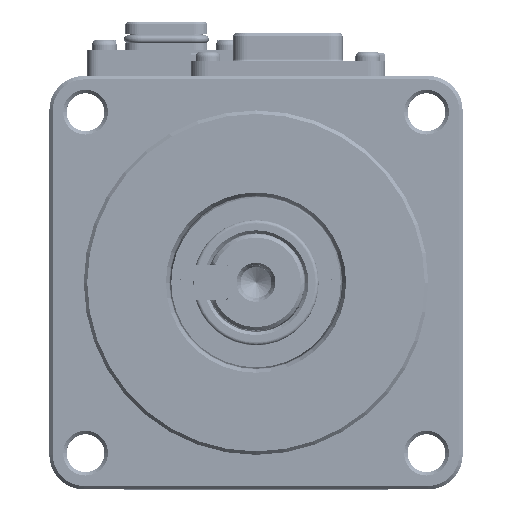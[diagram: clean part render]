
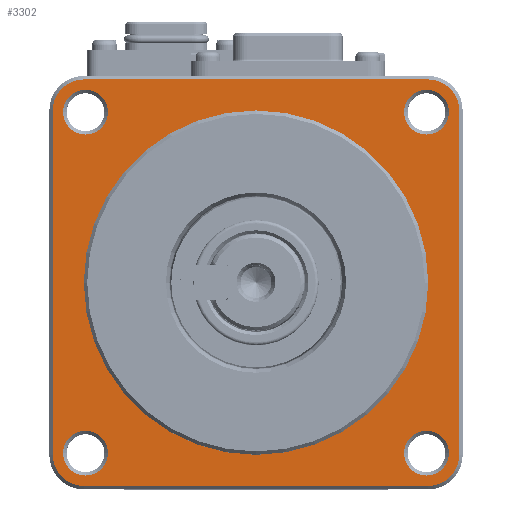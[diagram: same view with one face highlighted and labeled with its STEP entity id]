
A CAD part, top view. The second image highlights one B-rep face of the part: STEP entity #3302.
In plain terms, the highlighted planar face has unit normal (0, 0, 1).
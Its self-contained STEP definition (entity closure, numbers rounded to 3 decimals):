
#469=CARTESIAN_POINT('',(25.,-25.,13.7));
#470=DIRECTION('',(0.,0.,-1.));
#471=DIRECTION('',(1.,0.,0.));
#472=AXIS2_PLACEMENT_3D('',#469,#470,#471);
#474=DIRECTION('',(-1.,0.,0.));
#475=VECTOR('',#474,50.);
#476=CARTESIAN_POINT('',(25.,-29.5,13.7));
#477=LINE('',#476,#475);
#478=CARTESIAN_POINT('',(-25.,-25.,13.7));
#479=DIRECTION('',(0.,0.,-1.));
#480=DIRECTION('',(0.,-1.,0.));
#481=AXIS2_PLACEMENT_3D('',#478,#479,#480);
#483=DIRECTION('',(0.,1.,0.));
#484=VECTOR('',#483,50.);
#485=CARTESIAN_POINT('',(-29.5,-25.,13.7));
#486=LINE('',#485,#484);
#487=CARTESIAN_POINT('',(-25.,25.,13.7));
#488=DIRECTION('',(0.,0.,-1.));
#489=DIRECTION('',(-1.,0.,0.));
#490=AXIS2_PLACEMENT_3D('',#487,#488,#489);
#492=DIRECTION('',(1.,0.,0.));
#493=VECTOR('',#492,50.);
#494=CARTESIAN_POINT('',(-25.,29.5,13.7));
#495=LINE('',#494,#493);
#496=CARTESIAN_POINT('',(25.,25.,13.7));
#497=DIRECTION('',(0.,0.,-1.));
#498=DIRECTION('',(0.,1.,0.));
#499=AXIS2_PLACEMENT_3D('',#496,#497,#498);
#501=DIRECTION('',(0.,-1.,0.));
#502=VECTOR('',#501,50.);
#503=CARTESIAN_POINT('',(29.5,25.,13.7));
#504=LINE('',#503,#502);
#505=CARTESIAN_POINT('',(24.749,-24.749,13.7));
#506=DIRECTION('',(0.,0.,-1.));
#507=DIRECTION('',(-1.,0.,0.));
#508=AXIS2_PLACEMENT_3D('',#505,#506,#507);
#510=CARTESIAN_POINT('',(24.749,-24.749,13.7));
#511=DIRECTION('',(0.,0.,-1.));
#512=DIRECTION('',(1.,0.,0.));
#513=AXIS2_PLACEMENT_3D('',#510,#511,#512);
#515=CARTESIAN_POINT('',(-24.749,-24.749,13.7));
#516=DIRECTION('',(0.,0.,-1.));
#517=DIRECTION('',(0.,-1.,0.));
#518=AXIS2_PLACEMENT_3D('',#515,#516,#517);
#520=CARTESIAN_POINT('',(-24.749,-24.749,13.7));
#521=DIRECTION('',(0.,0.,-1.));
#522=DIRECTION('',(0.,1.,0.));
#523=AXIS2_PLACEMENT_3D('',#520,#521,#522);
#525=CARTESIAN_POINT('',(24.749,24.749,13.7));
#526=DIRECTION('',(0.,0.,-1.));
#527=DIRECTION('',(0.,-1.,0.));
#528=AXIS2_PLACEMENT_3D('',#525,#526,#527);
#530=CARTESIAN_POINT('',(24.749,24.749,13.7));
#531=DIRECTION('',(0.,0.,-1.));
#532=DIRECTION('',(0.,1.,0.));
#533=AXIS2_PLACEMENT_3D('',#530,#531,#532);
#535=CARTESIAN_POINT('',(-24.749,24.749,13.7));
#536=DIRECTION('',(0.,0.,-1.));
#537=DIRECTION('',(-1.,0.,0.));
#538=AXIS2_PLACEMENT_3D('',#535,#536,#537);
#540=CARTESIAN_POINT('',(-24.749,24.749,13.7));
#541=DIRECTION('',(0.,0.,-1.));
#542=DIRECTION('',(1.,0.,0.));
#543=AXIS2_PLACEMENT_3D('',#540,#541,#542);
#554=CARTESIAN_POINT('',(0.,0.,13.7));
#555=DIRECTION('',(0.,0.,-1.));
#556=DIRECTION('',(0.,1.,0.));
#557=AXIS2_PLACEMENT_3D('',#554,#555,#556);
#596=CARTESIAN_POINT('',(0.,0.,13.7));
#597=DIRECTION('',(0.,0.,1.));
#598=DIRECTION('',(0.,1.,0.));
#599=AXIS2_PLACEMENT_3D('',#596,#597,#598);
#2212=CARTESIAN_POINT('',(0.,25.,13.7));
#2213=CARTESIAN_POINT('',(0.,-25.,13.7));
#2214=VERTEX_POINT('',#2212);
#2215=VERTEX_POINT('',#2213);
#2658=CARTESIAN_POINT('',(29.5,-25.,13.7));
#2659=CARTESIAN_POINT('',(25.,-29.5,13.7));
#2660=VERTEX_POINT('',#2658);
#2661=VERTEX_POINT('',#2659);
#2664=CARTESIAN_POINT('',(-25.,-29.5,
13.7));
#2665=VERTEX_POINT('',#2664);
#2668=CARTESIAN_POINT('',(-29.5,-25.,13.7));
#2669=VERTEX_POINT('',#2668);
#2672=CARTESIAN_POINT('',(-29.5,25.,13.7));
#2673=VERTEX_POINT('',#2672);
#2676=CARTESIAN_POINT('',(-25.,29.5,13.7));
#2677=VERTEX_POINT('',#2676);
#2680=CARTESIAN_POINT('',(25.,29.5,13.7));
#2681=VERTEX_POINT('',#2680);
#2684=CARTESIAN_POINT('',(29.5,25.,13.7));
#2685=VERTEX_POINT('',#2684);
#2704=CARTESIAN_POINT('',(21.499,-24.749,13.7));
#2705=CARTESIAN_POINT('',(27.999,-24.749,13.7));
#2706=VERTEX_POINT('',#2704);
#2707=VERTEX_POINT('',#2705);
#2712=CARTESIAN_POINT('',(-24.749,-27.999,13.7));
#2713=CARTESIAN_POINT('',(-24.749,-21.499,13.7));
#2714=VERTEX_POINT('',#2712);
#2715=VERTEX_POINT('',#2713);
#2720=CARTESIAN_POINT('',(24.749,21.499,13.7));
#2721=CARTESIAN_POINT('',(24.749,27.999,13.7));
#2722=VERTEX_POINT('',#2720);
#2723=VERTEX_POINT('',#2721);
#2728=CARTESIAN_POINT('',(-27.999,24.749,13.7));
#2729=CARTESIAN_POINT('',(-21.499,24.749,13.7));
#2730=VERTEX_POINT('',#2728);
#2731=VERTEX_POINT('',#2729);
#3252=CARTESIAN_POINT('',(0.,0.,13.7));
#3253=DIRECTION('',(0.,0.,1.));
#3254=DIRECTION('',(0.,1.,0.));
#3255=AXIS2_PLACEMENT_3D('',#3252,#3253,#3254);
#3256=PLANE('',#3255);
#3258=ORIENTED_EDGE('',*,*,#3257,.T.);
#3260=ORIENTED_EDGE('',*,*,#3259,.T.);
#3262=ORIENTED_EDGE('',*,*,#3261,.T.);
#3264=ORIENTED_EDGE('',*,*,#3263,.T.);
#3266=ORIENTED_EDGE('',*,*,#3265,.T.);
#3267=ORIENTED_EDGE('',*,*,#3069,.T.);
#3268=ORIENTED_EDGE('',*,*,#3085,.T.);
#3270=ORIENTED_EDGE('',*,*,#3269,.T.);
#3271=EDGE_LOOP('',(#3258,#3260,#3262,#3264,#3266,#3267,#3268,#3270));
#3272=FACE_OUTER_BOUND('',#3271,.F.);
#3274=ORIENTED_EDGE('',*,*,#3273,.F.);
#3276=ORIENTED_EDGE('',*,*,#3275,.T.);
#3277=EDGE_LOOP('',(#3274,#3276));
#3278=FACE_BOUND('',#3277,.F.);
#3280=ORIENTED_EDGE('',*,*,#3279,.F.);
#3282=ORIENTED_EDGE('',*,*,#3281,.F.);
#3283=EDGE_LOOP('',(#3280,#3282));
#3284=FACE_BOUND('',#3283,.F.);
#3286=ORIENTED_EDGE('',*,*,#3285,.F.);
#3288=ORIENTED_EDGE('',*,*,#3287,.F.);
#3289=EDGE_LOOP('',(#3286,#3288));
#3290=FACE_BOUND('',#3289,.F.);
#3292=ORIENTED_EDGE('',*,*,#3291,.F.);
#3294=ORIENTED_EDGE('',*,*,#3293,.F.);
#3295=EDGE_LOOP('',(#3292,#3294));
#3296=FACE_BOUND('',#3295,.F.);
#3297=ORIENTED_EDGE('',*,*,#3242,.F.);
#3299=ORIENTED_EDGE('',*,*,#3298,.F.);
#3300=EDGE_LOOP('',(#3297,#3299));
#3301=FACE_BOUND('',#3300,.F.);
#3302=ADVANCED_FACE('',(#3272,#3278,#3284,#3290,#3296,#3301),#3256,.T.);
#473=CIRCLE('',#472,4.5);
#482=CIRCLE('',#481,4.5);
#491=CIRCLE('',#490,4.5);
#500=CIRCLE('',#499,4.5);
#509=CIRCLE('',#508,3.25);
#514=CIRCLE('',#513,3.25);
#519=CIRCLE('',#518,3.25);
#524=CIRCLE('',#523,3.25);
#529=CIRCLE('',#528,3.25);
#534=CIRCLE('',#533,3.25);
#539=CIRCLE('',#538,3.25);
#544=CIRCLE('',#543,3.25);
#558=CIRCLE('',#557,25.);
#600=CIRCLE('',#599,25.);
#3069=EDGE_CURVE('',#2677,#2681,#495,.T.);
#3085=EDGE_CURVE('',#2681,#2685,#500,.T.);
#3242=EDGE_CURVE('',#2730,#2731,#539,.T.);
#3257=EDGE_CURVE('',#2660,#2661,#473,.T.);
#3259=EDGE_CURVE('',#2661,#2665,#477,.T.);
#3261=EDGE_CURVE('',#2665,#2669,#482,.T.);
#3263=EDGE_CURVE('',#2669,#2673,#486,.T.);
#3265=EDGE_CURVE('',#2673,#2677,#491,.T.);
#3269=EDGE_CURVE('',#2685,#2660,#504,.T.);
#3273=EDGE_CURVE('',#2214,#2215,#558,.T.);
#3275=EDGE_CURVE('',#2214,#2215,#600,.T.);
#3279=EDGE_CURVE('',#2706,#2707,#509,.T.);
#3281=EDGE_CURVE('',#2707,#2706,#514,.T.);
#3285=EDGE_CURVE('',#2714,#2715,#519,.T.);
#3287=EDGE_CURVE('',#2715,#2714,#524,.T.);
#3291=EDGE_CURVE('',#2722,#2723,#529,.T.);
#3293=EDGE_CURVE('',#2723,#2722,#534,.T.);
#3298=EDGE_CURVE('',#2731,#2730,#544,.T.);
